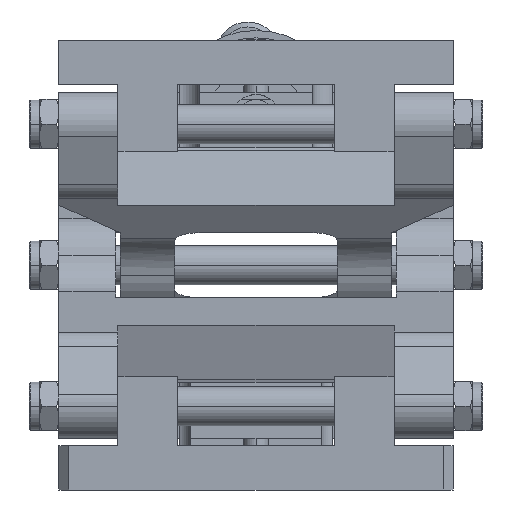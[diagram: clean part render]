
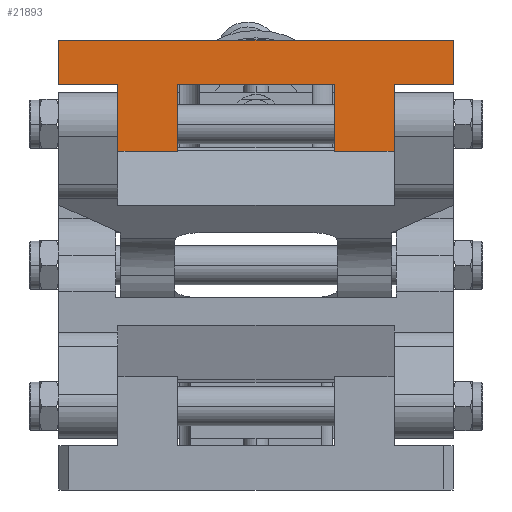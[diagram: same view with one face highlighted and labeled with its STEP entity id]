
A CAD part, left-side view. The second image highlights one B-rep face of the part: STEP entity #21893.
In plain terms, the highlighted planar face has unit normal (-1, 0, 0).
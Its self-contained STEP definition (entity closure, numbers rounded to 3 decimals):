
#1404 = EDGE_CURVE ( 'NONE', #19795, #7137, #14020, .T. ) ;
#1419 = VERTEX_POINT ( 'NONE', #4864 ) ;
#1626 = VERTEX_POINT ( 'NONE', #16684 ) ;
#1872 = ORIENTED_EDGE ( 'NONE', *, *, #18246, .F. ) ;
#1974 = DIRECTION ( 'NONE',  ( 0., 1., 0. ) ) ;
#2224 = VECTOR ( 'NONE', #14707, 1000. ) ;
#2313 = EDGE_CURVE ( 'NONE', #18495, #3482, #8979, .T. ) ;
#2589 = CARTESIAN_POINT ( 'NONE',  ( -89.065, 20.734, 67.224 ) ) ;
#2888 = VERTEX_POINT ( 'NONE', #23881 ) ;
#2925 = EDGE_CURVE ( 'NONE', #1626, #12982, #25461, .T. ) ;
#3015 = LINE ( 'NONE', #8519, #7060 ) ;
#3099 = DIRECTION ( 'NONE',  ( 0., 0., -1. ) ) ;
#3421 = LINE ( 'NONE', #10047, #18142 ) ;
#3482 = VERTEX_POINT ( 'NONE', #15511 ) ;
#3681 = VECTOR ( 'NONE', #3099, 1000. ) ;
#3790 = CARTESIAN_POINT ( 'NONE',  ( -89.065, -35.266, 57.224 ) ) ;
#3954 = EDGE_CURVE ( 'NONE', #12982, #19795, #10617, .T. ) ;
#4262 = CARTESIAN_POINT ( 'NONE',  ( -89.065, 8.734, 57.224 ) ) ;
#4568 = ORIENTED_EDGE ( 'NONE', *, *, #5389, .T. ) ;
#4844 = CARTESIAN_POINT ( 'NONE',  ( -89.065, -23.266, 70.724 ) ) ;
#4864 = CARTESIAN_POINT ( 'NONE',  ( -89.065, -47.266, 79.724 ) ) ;
#5250 = EDGE_CURVE ( 'NONE', #18495, #1419, #10174, .T. ) ;
#5327 = CARTESIAN_POINT ( 'NONE',  ( -89.065, 32.734, 79.724 ) ) ;
#5389 = EDGE_CURVE ( 'NONE', #15563, #1419, #24591, .T. ) ;
#5395 = LINE ( 'NONE', #2589, #13236 ) ;
#5531 = VECTOR ( 'NONE', #15030, 1000. ) ;
#5604 = CARTESIAN_POINT ( 'NONE',  ( -89.065, 32.734, 67.224 ) ) ;
#5617 = EDGE_CURVE ( 'NONE', #15563, #2888, #3015, .T. ) ;
#6544 = VECTOR ( 'NONE', #16226, 1000. ) ;
#6574 = LINE ( 'NONE', #6990, #10637 ) ;
#6891 = CARTESIAN_POINT ( 'NONE',  ( -89.065, 20.734, 57.224 ) ) ;
#6990 = CARTESIAN_POINT ( 'NONE',  ( -89.065, -35.266, 67.224 ) ) ;
#7060 = VECTOR ( 'NONE', #22513, 1000. ) ;
#7137 = VERTEX_POINT ( 'NONE', #4262 ) ;
#7312 = CARTESIAN_POINT ( 'NONE',  ( -89.065, 8.734, 70.724 ) ) ;
#7352 = DIRECTION ( 'NONE',  ( 0., 0., 1. ) ) ;
#7593 = ORIENTED_EDGE ( 'NONE', *, *, #5250, .F. ) ;
#7682 = VERTEX_POINT ( 'NONE', #3790 ) ;
#7767 = DIRECTION ( 'NONE',  ( 1., 0., 0. ) ) ;
#7800 = DIRECTION ( 'NONE',  ( 0., 1., 0. ) ) ;
#7906 = VECTOR ( 'NONE', #7352, 1000. ) ;
#8519 = CARTESIAN_POINT ( 'NONE',  ( -89.065, 32.734, 70.724 ) ) ;
#8979 = LINE ( 'NONE', #23186, #3681 ) ;
#9073 = DIRECTION ( 'NONE',  ( 0., 0., -1. ) ) ;
#9170 = DIRECTION ( 'NONE',  ( 0., 0., 1. ) ) ;
#9463 = ORIENTED_EDGE ( 'NONE', *, *, #11269, .F. ) ;
#10047 = CARTESIAN_POINT ( 'NONE',  ( -89.065, 32.734, 57.224 ) ) ;
#10174 = LINE ( 'NONE', #12892, #5531 ) ;
#10279 = ORIENTED_EDGE ( 'NONE', *, *, #3954, .F. ) ;
#10617 = LINE ( 'NONE', #22108, #25337 ) ;
#10637 = VECTOR ( 'NONE', #9073, 1000. ) ;
#11269 = EDGE_CURVE ( 'NONE', #7137, #17344, #12528, .T. ) ;
#12528 = LINE ( 'NONE', #14980, #2224 ) ;
#12721 = AXIS2_PLACEMENT_3D ( 'NONE', #5604, #7767, #21740 ) ;
#12892 = CARTESIAN_POINT ( 'NONE',  ( -89.065, -7.266, 79.724 ) ) ;
#12941 = EDGE_CURVE ( 'NONE', #7682, #1626, #3421, .T. ) ;
#12982 = VERTEX_POINT ( 'NONE', #4844 ) ;
#13097 = CARTESIAN_POINT ( 'NONE',  ( -89.065, 8.734, 67.224 ) ) ;
#13236 = VECTOR ( 'NONE', #20577, 1000. ) ;
#13930 = PLANE ( 'NONE',  #12721 ) ;
#14020 = LINE ( 'NONE', #13097, #18704 ) ;
#14134 = ORIENTED_EDGE ( 'NONE', *, *, #2925, .F. ) ;
#14707 = DIRECTION ( 'NONE',  ( 0., 1., 0. ) ) ;
#14980 = CARTESIAN_POINT ( 'NONE',  ( -89.065, 32.734, 57.224 ) ) ;
#15030 = DIRECTION ( 'NONE',  ( 0., -1., 0. ) ) ;
#15116 = CARTESIAN_POINT ( 'NONE',  ( -89.065, -47.266, 67.224 ) ) ;
#15511 = CARTESIAN_POINT ( 'NONE',  ( -89.065, 32.734, 70.724 ) ) ;
#15563 = VERTEX_POINT ( 'NONE', #19946 ) ;
#15988 = CARTESIAN_POINT ( 'NONE',  ( -89.065, 32.734, 70.724 ) ) ;
#16226 = DIRECTION ( 'NONE',  ( 0., 1., 0. ) ) ;
#16319 = EDGE_CURVE ( 'NONE', #17344, #25489, #5395, .T. ) ;
#16684 = CARTESIAN_POINT ( 'NONE',  ( -89.065, -23.266, 57.224 ) ) ;
#17344 = VERTEX_POINT ( 'NONE', #6891 ) ;
#18142 = VECTOR ( 'NONE', #1974, 1000. ) ;
#18246 = EDGE_CURVE ( 'NONE', #25489, #3482, #23422, .T. ) ;
#18383 = EDGE_LOOP ( 'NONE', ( #14134, #24102, #20495, #18845, #4568, #7593, #21773, #1872, #24340, #9463, #22286, #10279 ) ) ;
#18495 = VERTEX_POINT ( 'NONE', #5327 ) ;
#18704 = VECTOR ( 'NONE', #25026, 1000. ) ;
#18845 = ORIENTED_EDGE ( 'NONE', *, *, #5617, .F. ) ;
#19795 = VERTEX_POINT ( 'NONE', #7312 ) ;
#19946 = CARTESIAN_POINT ( 'NONE',  ( -89.065, -47.266, 70.724 ) ) ;
#20217 = VECTOR ( 'NONE', #9170, 1000. ) ;
#20495 = ORIENTED_EDGE ( 'NONE', *, *, #25641, .F. ) ;
#20577 = DIRECTION ( 'NONE',  ( 0., 0., 1. ) ) ;
#21132 = FACE_OUTER_BOUND ( 'NONE', #18383, .T. ) ;
#21740 = DIRECTION ( 'NONE',  ( 0., 0., -1. ) ) ;
#21773 = ORIENTED_EDGE ( 'NONE', *, *, #2313, .T. ) ;
#21893 = ADVANCED_FACE ( 'NONE', ( #21132 ), #13930, .F. ) ;
#22108 = CARTESIAN_POINT ( 'NONE',  ( -89.065, 32.734, 70.724 ) ) ;
#22286 = ORIENTED_EDGE ( 'NONE', *, *, #1404, .F. ) ;
#22513 = DIRECTION ( 'NONE',  ( 0., 1., 0. ) ) ;
#23186 = CARTESIAN_POINT ( 'NONE',  ( -89.065, 32.734, 67.224 ) ) ;
#23422 = LINE ( 'NONE', #15988, #6544 ) ;
#23881 = CARTESIAN_POINT ( 'NONE',  ( -89.065, -35.266, 70.724 ) ) ;
#24102 = ORIENTED_EDGE ( 'NONE', *, *, #12941, .F. ) ;
#24303 = CARTESIAN_POINT ( 'NONE',  ( -89.065, -23.266, 67.224 ) ) ;
#24340 = ORIENTED_EDGE ( 'NONE', *, *, #16319, .F. ) ;
#24557 = CARTESIAN_POINT ( 'NONE',  ( -89.065, 20.734, 70.724 ) ) ;
#24591 = LINE ( 'NONE', #15116, #20217 ) ;
#25026 = DIRECTION ( 'NONE',  ( 0., 0., -1. ) ) ;
#25337 = VECTOR ( 'NONE', #7800, 1000. ) ;
#25461 = LINE ( 'NONE', #24303, #7906 ) ;
#25489 = VERTEX_POINT ( 'NONE', #24557 ) ;
#25641 = EDGE_CURVE ( 'NONE', #2888, #7682, #6574, .T. ) ;
